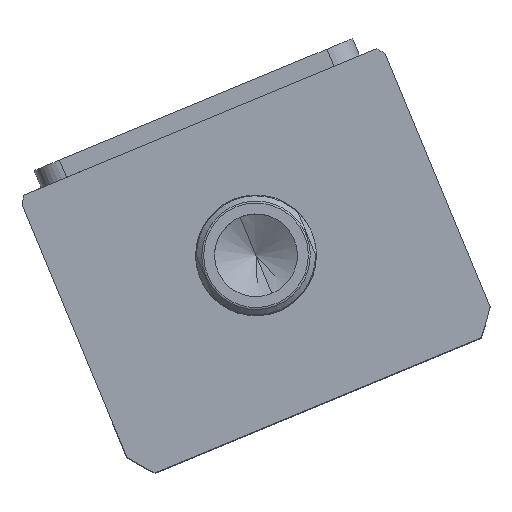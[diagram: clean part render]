
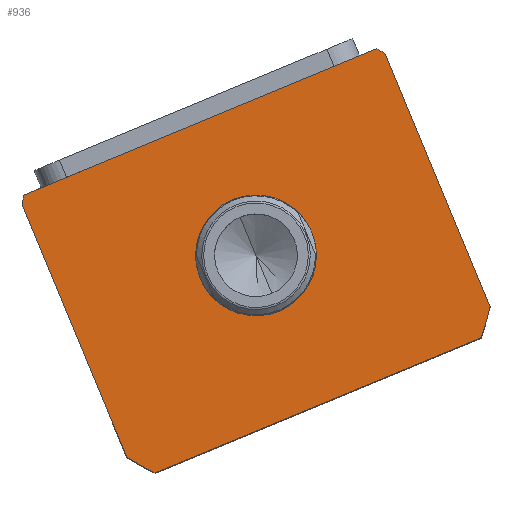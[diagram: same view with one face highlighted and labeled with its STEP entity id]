
A CAD part, top view. The second image highlights one B-rep face of the part: STEP entity #936.
In plain terms, the highlighted planar face has unit normal (0, 0, 1) as drawn and (0, 0, -1) by its records, which use the part's own axes.
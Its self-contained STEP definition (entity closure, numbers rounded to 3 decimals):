
#218 = DIRECTION ( 'NONE',  ( 1., 0., 0. ) ) ;
#270 = VERTEX_POINT ( 'NONE', #17367 ) ;
#481 = AXIS2_PLACEMENT_3D ( 'NONE', #1188, #14243, #5583 ) ;
#558 = ORIENTED_EDGE ( 'NONE', *, *, #18693, .T. ) ;
#626 = VERTEX_POINT ( 'NONE', #8035 ) ;
#885 = DIRECTION ( 'NONE',  ( 1., 0., 0. ) ) ;
#936 = ADVANCED_FACE ( 'NONE', ( #6053, #16632 ), #12786, .F. ) ;
#945 = VERTEX_POINT ( 'NONE', #7047 ) ;
#969 = EDGE_LOOP ( 'NONE', ( #558, #7702 ) ) ;
#1062 = VERTEX_POINT ( 'NONE', #6667 ) ;
#1188 = CARTESIAN_POINT ( 'NONE',  ( 0., 0., 0. ) ) ;
#1291 = CIRCLE ( 'NONE', #15699, 69.5 ) ;
#1624 = EDGE_CURVE ( 'NONE', #8776, #270, #7169, .T. ) ;
#2359 = CARTESIAN_POINT ( 'NONE',  ( 0., -59.497, 0. ) ) ;
#2585 = ORIENTED_EDGE ( 'NONE', *, *, #4275, .F. ) ;
#2588 = CARTESIAN_POINT ( 'NONE',  ( 0., -59.497, 0. ) ) ;
#2899 = ORIENTED_EDGE ( 'NONE', *, *, #16820, .F. ) ;
#2958 = CARTESIAN_POINT ( 'NONE',  ( -17.5, -59.497, 0. ) ) ;
#3280 = ORIENTED_EDGE ( 'NONE', *, *, #1624, .F. ) ;
#3492 = ORIENTED_EDGE ( 'NONE', *, *, #7576, .F. ) ;
#3649 = CARTESIAN_POINT ( 'NONE',  ( 0., -59.497, 0. ) ) ;
#3832 = DIRECTION ( 'NONE',  ( 1., 0., 0. ) ) ;
#3987 = ORIENTED_EDGE ( 'NONE', *, *, #13685, .F. ) ;
#4058 = DIRECTION ( 'NONE',  ( 1., 0., 0. ) ) ;
#4167 = CIRCLE ( 'NONE', #18359, 69.5 ) ;
#4275 = EDGE_CURVE ( 'NONE', #1062, #626, #7805, .T. ) ;
#4498 = VERTEX_POINT ( 'NONE', #7534 ) ;
#4744 = AXIS2_PLACEMENT_3D ( 'NONE', #3649, #13735, #5090 ) ;
#5090 = DIRECTION ( 'NONE',  ( 1., 0., 0. ) ) ;
#5583 = DIRECTION ( 'NONE',  ( 1., 0., 0. ) ) ;
#5739 = DIRECTION ( 'NONE',  ( 0., -1., 0. ) ) ;
#6053 = FACE_BOUND ( 'NONE', #969, .T. ) ;
#6175 = CIRCLE ( 'NONE', #18526, 17.5 ) ;
#6289 = VECTOR ( 'NONE', #10645, 1000. ) ;
#6667 = CARTESIAN_POINT ( 'NONE',  ( -57., -19.732, 0. ) ) ;
#6716 = LINE ( 'NONE', #16349, #6289 ) ;
#6765 = EDGE_CURVE ( 'NONE', #4498, #13741, #13820, .T. ) ;
#7047 = CARTESIAN_POINT ( 'NONE',  ( -51.198, -106.497, 0. ) ) ;
#7169 = LINE ( 'NONE', #17656, #17788 ) ;
#7534 = CARTESIAN_POINT ( 'NONE',  ( 57., -99.262, 0. ) ) ;
#7576 = EDGE_CURVE ( 'NONE', #270, #1062, #17905, .T. ) ;
#7702 = ORIENTED_EDGE ( 'NONE', *, *, #8106, .T. ) ;
#7805 = LINE ( 'NONE', #18487, #11663 ) ;
#8035 = CARTESIAN_POINT ( 'NONE',  ( -57., -99.262, 0. ) ) ;
#8106 = EDGE_CURVE ( 'NONE', #13004, #11867, #6175, .T. ) ;
#8319 = CARTESIAN_POINT ( 'NONE',  ( 57., -17.497, 0. ) ) ;
#8445 = CIRCLE ( 'NONE', #11616, 69.5 ) ;
#8621 = CARTESIAN_POINT ( 'NONE',  ( 0., -59.497, 0. ) ) ;
#8776 = VERTEX_POINT ( 'NONE', #17850 ) ;
#8903 = DIRECTION ( 'NONE',  ( 0., 0., 1. ) ) ;
#9572 = DIRECTION ( 'NONE',  ( 0., 0., 1. ) ) ;
#9767 = DIRECTION ( 'NONE',  ( 0., 1., 0. ) ) ;
#10079 = DIRECTION ( 'NONE',  ( 1., 0., 0. ) ) ;
#10449 = DIRECTION ( 'NONE',  ( -1., 0., 0. ) ) ;
#10480 = VECTOR ( 'NONE', #9767, 1000. ) ;
#10483 = CIRCLE ( 'NONE', #4744, 17.5 ) ;
#10645 = DIRECTION ( 'NONE',  ( 1., 0., 0. ) ) ;
#11616 = AXIS2_PLACEMENT_3D ( 'NONE', #2588, #12693, #4058 ) ;
#11663 = VECTOR ( 'NONE', #5739, 1000. ) ;
#11718 = VERTEX_POINT ( 'NONE', #18362 ) ;
#11867 = VERTEX_POINT ( 'NONE', #14409 ) ;
#11880 = ORIENTED_EDGE ( 'NONE', *, *, #15547, .F. ) ;
#12470 = DIRECTION ( 'NONE',  ( 0., 0., 1. ) ) ;
#12693 = DIRECTION ( 'NONE',  ( 0., 0., 1. ) ) ;
#12761 = ORIENTED_EDGE ( 'NONE', *, *, #6765, .F. ) ;
#12786 = PLANE ( 'NONE',  #481 ) ;
#13004 = VERTEX_POINT ( 'NONE', #2958 ) ;
#13507 = ORIENTED_EDGE ( 'NONE', *, *, #17085, .F. ) ;
#13685 = EDGE_CURVE ( 'NONE', #626, #945, #1291, .T. ) ;
#13735 = DIRECTION ( 'NONE',  ( 0., 0., 1. ) ) ;
#13741 = VERTEX_POINT ( 'NONE', #17342 ) ;
#13820 = LINE ( 'NONE', #8319, #10480 ) ;
#14038 = AXIS2_PLACEMENT_3D ( 'NONE', #2359, #12470, #3832 ) ;
#14243 = DIRECTION ( 'NONE',  ( 0., 0., 1. ) ) ;
#14409 = CARTESIAN_POINT ( 'NONE',  ( 17.5, -59.497, 0. ) ) ;
#15547 = EDGE_CURVE ( 'NONE', #945, #11718, #6716, .T. ) ;
#15699 = AXIS2_PLACEMENT_3D ( 'NONE', #8621, #18728, #10079 ) ;
#16349 = CARTESIAN_POINT ( 'NONE',  ( -57., -106.497, 0. ) ) ;
#16632 = FACE_OUTER_BOUND ( 'NONE', #18480, .T. ) ;
#16820 = EDGE_CURVE ( 'NONE', #11718, #4498, #8445, .T. ) ;
#17085 = EDGE_CURVE ( 'NONE', #13741, #8776, #4167, .T. ) ;
#17342 = CARTESIAN_POINT ( 'NONE',  ( 57., -19.732, 0. ) ) ;
#17367 = CARTESIAN_POINT ( 'NONE',  ( -55.374, -17.497, 0. ) ) ;
#17559 = CARTESIAN_POINT ( 'NONE',  ( 0., -59.497, 0. ) ) ;
#17656 = CARTESIAN_POINT ( 'NONE',  ( -57., -17.497, 0. ) ) ;
#17788 = VECTOR ( 'NONE', #10449, 1000. ) ;
#17850 = CARTESIAN_POINT ( 'NONE',  ( 55.374, -17.497, 0. ) ) ;
#17905 = CIRCLE ( 'NONE', #14038, 69.5 ) ;
#18228 = CARTESIAN_POINT ( 'NONE',  ( 0., -59.497, 0. ) ) ;
#18359 = AXIS2_PLACEMENT_3D ( 'NONE', #18228, #9572, #885 ) ;
#18362 = CARTESIAN_POINT ( 'NONE',  ( 51.198, -106.497, 0. ) ) ;
#18480 = EDGE_LOOP ( 'NONE', ( #13507, #12761, #2899, #11880, #3987, #2585, #3492, #3280 ) ) ;
#18487 = CARTESIAN_POINT ( 'NONE',  ( -57., -17.497, 0. ) ) ;
#18526 = AXIS2_PLACEMENT_3D ( 'NONE', #17559, #8903, #218 ) ;
#18693 = EDGE_CURVE ( 'NONE', #11867, #13004, #10483, .T. ) ;
#18728 = DIRECTION ( 'NONE',  ( 0., 0., 1. ) ) ;
